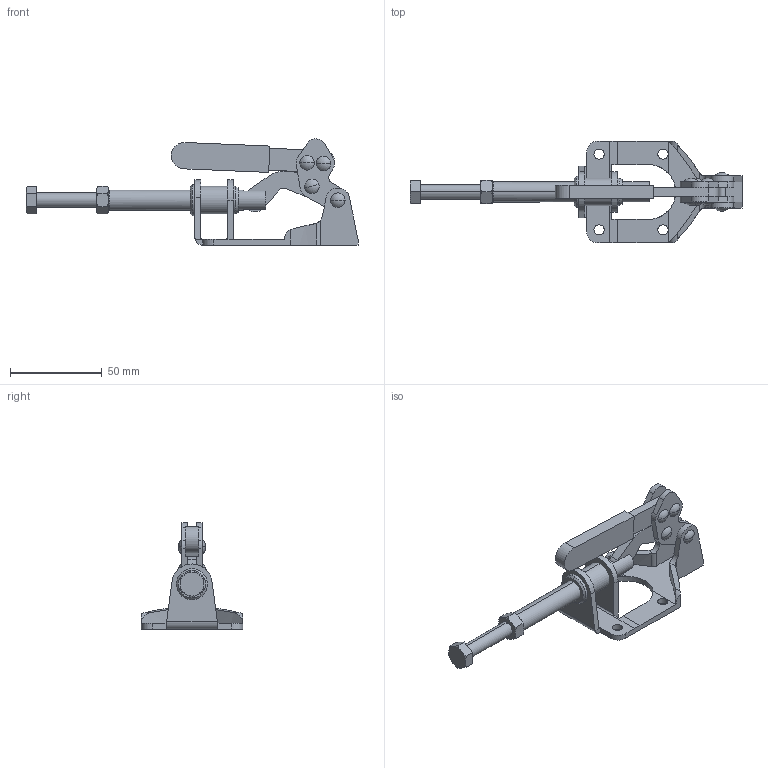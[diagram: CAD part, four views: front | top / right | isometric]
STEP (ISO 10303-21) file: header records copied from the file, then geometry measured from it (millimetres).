
FILE_DESCRIPTION(('CATIA V5 STEP Exchange'),'2;1');
FILE_NAME('D:\Model\toggle\toggle_standard\KJF_014_31FF.stp','2005-06-24T04:35:45+00:00',('none'),('none'),'CATIA Version 5 Release 11 (IN-9)','CATIA V5 STEP AP203',' none');
FILE_SCHEMA(('CONFIG_CONTROL_DESIGN'));
Length unit declared in the file: millimetre
Products named in the file (1): Part1
Bounding box: 181.22 x 55.6 x 58.07 mm (x, y, z)
Volume: 47627.1 mm3; surface area: 29557.6 mm2
Topology: 13 solids, 13 shells, 216 faces, 553 edges, 357 vertices
Faces by surface type: plane 104, cylinder 65, cone 31, bspline 16
Entity records: 8346 total; most frequent: CARTESIAN_POINT 3562, ORIENTED_EDGE 1074, DIRECTION 751, EDGE_CURVE 537, VERTEX_POINT 357, AXIS2_PLACEMENT_3D 324, VECTOR 279, LINE 279
